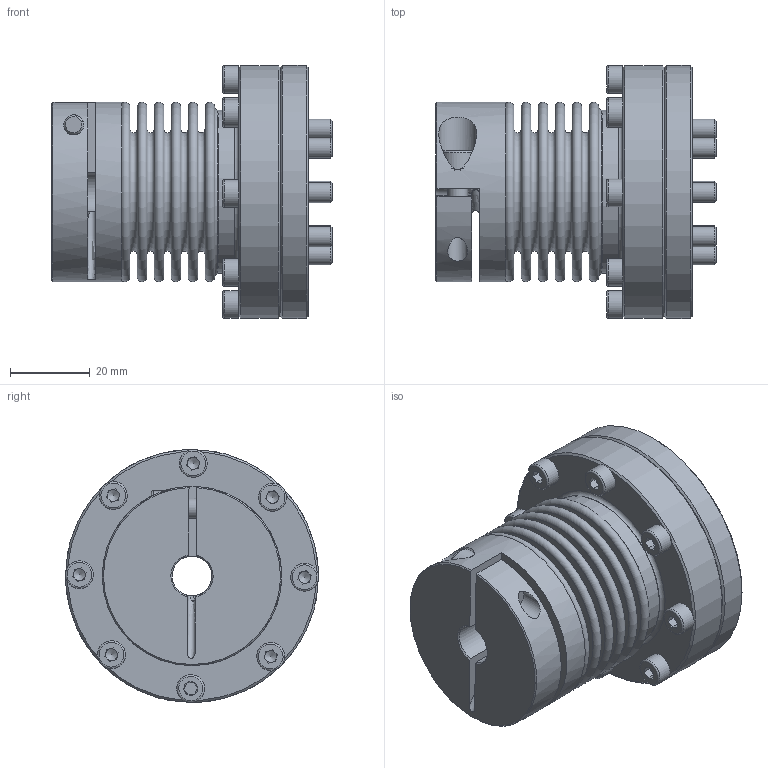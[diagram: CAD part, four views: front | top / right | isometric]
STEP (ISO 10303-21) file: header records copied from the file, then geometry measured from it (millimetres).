
FILE_DESCRIPTION( ( 'Unknown' ), '1' );
FILE_NAME( 'C:/Users/skarpstein/Desktop/KB4F/KB4F-18-63.stp', 'Unknown', ( 'Unknown' ), ( 'Unknown' ), 'PSStep 16.0.42', 'Unknown', ' ' );
FILE_SCHEMA( ( 'AUTOMOTIVE_DESIGN { 1 0 10303 214 1 1 1 1 }' ) );
Length unit declared in the file: millimetre
Products named in the file (9): Assem1; KN18C_Standard; BK18_Standard_1; Socket Head Cap Screw_DIN_DIN 912 M5 x 16 --- 16N_3; ISO 4017 - M5 x 16-N; Socket Head Cap Screw_DIN_DIN 912 M4 x 16 --- 16N; ISO EN DIN 4762 M4x16; Kupplungsflansch F18; Flansch A31-5-F18
Assembly tree (21 placements, depth 2):
  Assem1
    KN18C_Standard
    BK18_Standard_1
    Socket Head Cap Screw_DIN_DIN 912 M5 x 16 --- 16N_3
    ISO 4017 - M5 x 16-N  x8
    Socket Head Cap Screw_DIN_DIN 912 M4 x 16 --- 16N  x7
    ISO EN DIN 4762 M4x16
    Kupplungsflansch F18
    Flansch A31-5-F18
Bounding box: 70.38 x 63.5 x 63.5 mm (x, y, z)
Volume: 77265.8 mm3; surface area: 59712.4 mm2
Topology: 21 solids, 21 shells, 521 faces, 1111 edges, 679 vertices
Faces by surface type: plane 294, cone 93, cylinder 78, torus 55, bspline 1
Full cylindrical faces by diameter (mm): 3.242 x8, 3.5 x1, 4 x9, 4.5 x8, 5 x10, 5.3 x1, 5.5 x8, 7 x8, 8 x8, 8.5 x1, 10 x1, 20 x1, 25 x1, 40 x1, 40.4 x2, 40.8 x1, 41 x2, 44 x2, 45 x1, 63.5 x2
Entity records: 8095 total; most frequent: CARTESIAN_POINT 1667, DIRECTION 994, ORIENTED_EDGE 676, AXIS2_PLACEMENT_3D 452, EDGE_LOOP 414, EDGE_CURVE 338, FACE_OUTER_BOUND 303, VERTEX_POINT 282
